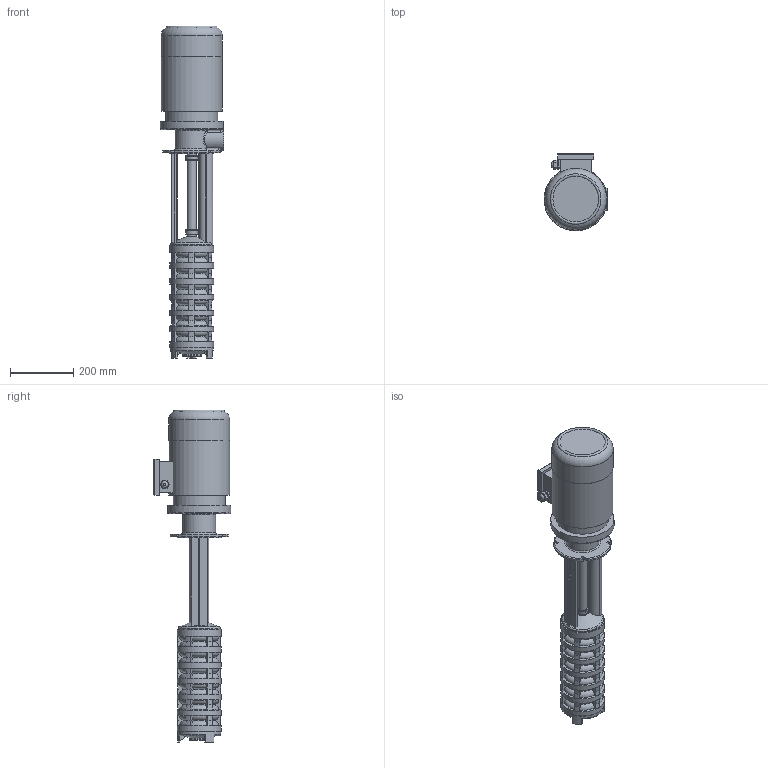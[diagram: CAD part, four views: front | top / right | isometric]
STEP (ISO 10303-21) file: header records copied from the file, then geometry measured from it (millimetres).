
FILE_DESCRIPTION(/* description */ ('Unknown'),/* implementation_level */ '2;1');
FILE_NAME(/* name */ 'gp7-650',/* time_stamp */ '2025-06-17T14:05:22+03:00',/* author */ ('Unknown'),/* organization */ ('Unknown'),/* preprocessor_version */ 'ST-DEVELOPER v16.7',/* originating_system */ 'DEX',/* authorisation */ $);
FILE_SCHEMA (('AP242_MANAGED_MODEL_BASED_3D_ENGINEERING_MIM_LF { 1 0 10303 442 1 1 4 }','AUTOMOTIVE_DESIGN {1 0 10303 214 3 1 1}'));
Length unit declared in the file: millimetre
Products named in the file (1): gp7-650
Bounding box: 202 x 245.5 x 1050.5 mm (x, y, z)
Volume: 16431260.6 mm3; surface area: 721581 mm2
Topology: 1 solids, 1 shells, 564 faces, 1528 edges, 997 vertices
Faces by surface type: plane 182, cylinder 108, cone 101, torus 89, bspline 84
Full cylindrical faces by diameter (mm): 17 x1, 21.5 x1, 29 x3, 33 x2, 35 x2, 39 x2, 40.5 x2, 45 x1, 47 x1, 60 x1, 137 x1, 139 x7, 140 x1, 165 x1, 192.353 x1, 194 x1, 200 x1
Entity records: 20327 total; most frequent: CARTESIAN_POINT 6610, ORIENTED_EDGE 2886, DIRECTION 2785, EDGE_CURVE 1443, AXIS2_PLACEMENT_3D 1068, VERTEX_POINT 975, EDGE_LOOP 662, FACE_BOUND 662
